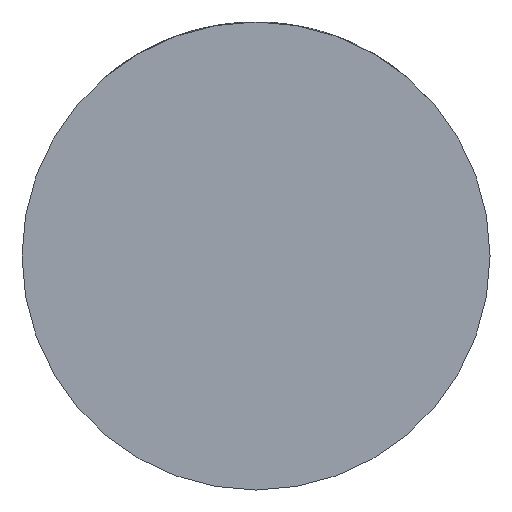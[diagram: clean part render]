
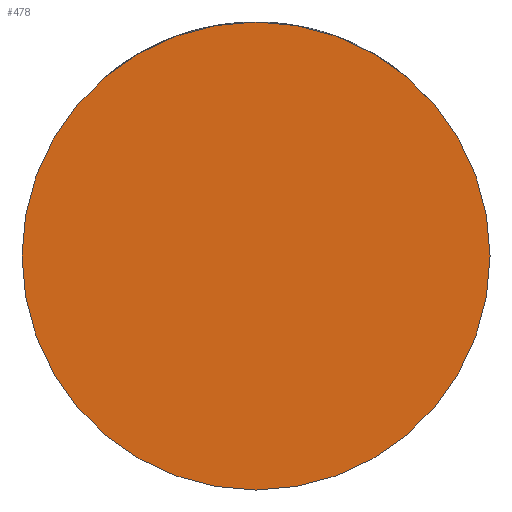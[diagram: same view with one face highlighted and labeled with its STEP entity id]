
A CAD part, front view. The second image highlights one B-rep face of the part: STEP entity #478.
In plain terms, the highlighted planar face has unit normal (0, -1, 0).
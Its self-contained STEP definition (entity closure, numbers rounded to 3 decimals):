
#262 = AXIS2_PLACEMENT_3D ( 'NONE', #1873, #3272, #3938 ) ;
#336 = CARTESIAN_POINT ( 'NONE',  ( 0., -33., 0. ) ) ;
#409 = CIRCLE ( 'NONE', #262, 29.5 ) ;
#478 = ADVANCED_FACE ( 'NONE', ( #4092 ), #2345, .T. ) ;
#586 = AXIS2_PLACEMENT_3D ( 'NONE', #1750, #1021, #3516 ) ;
#615 = EDGE_LOOP ( 'NONE', ( #4244, #3881 ) ) ;
#680 = VERTEX_POINT ( 'NONE', #3600 ) ;
#884 = EDGE_CURVE ( 'NONE', #1994, #680, #2556, .T. ) ;
#1021 = DIRECTION ( 'NONE',  ( 0., -1., 0. ) ) ;
#1605 = AXIS2_PLACEMENT_3D ( 'NONE', #336, #2834, #3501 ) ;
#1750 = CARTESIAN_POINT ( 'NONE',  ( 0., -33., 0. ) ) ;
#1873 = CARTESIAN_POINT ( 'NONE',  ( 0., -33., 0. ) ) ;
#1994 = VERTEX_POINT ( 'NONE', #3504 ) ;
#2345 = PLANE ( 'NONE',  #586 ) ;
#2556 = CIRCLE ( 'NONE', #1605, 29.5 ) ;
#2834 = DIRECTION ( 'NONE',  ( 0., -1., 0. ) ) ;
#3272 = DIRECTION ( 'NONE',  ( 0., -1., 0. ) ) ;
#3501 = DIRECTION ( 'NONE',  ( 1., 0., 0. ) ) ;
#3504 = CARTESIAN_POINT ( 'NONE',  ( -29.5, -33., 0. ) ) ;
#3516 = DIRECTION ( 'NONE',  ( 1., 0., 0. ) ) ;
#3600 = CARTESIAN_POINT ( 'NONE',  ( 29.5, -33., 0. ) ) ;
#3881 = ORIENTED_EDGE ( 'NONE', *, *, #4056, .T. ) ;
#3938 = DIRECTION ( 'NONE',  ( 1., 0., 0. ) ) ;
#4056 = EDGE_CURVE ( 'NONE', #680, #1994, #409, .T. ) ;
#4092 = FACE_OUTER_BOUND ( 'NONE', #615, .T. ) ;
#4244 = ORIENTED_EDGE ( 'NONE', *, *, #884, .T. ) ;
